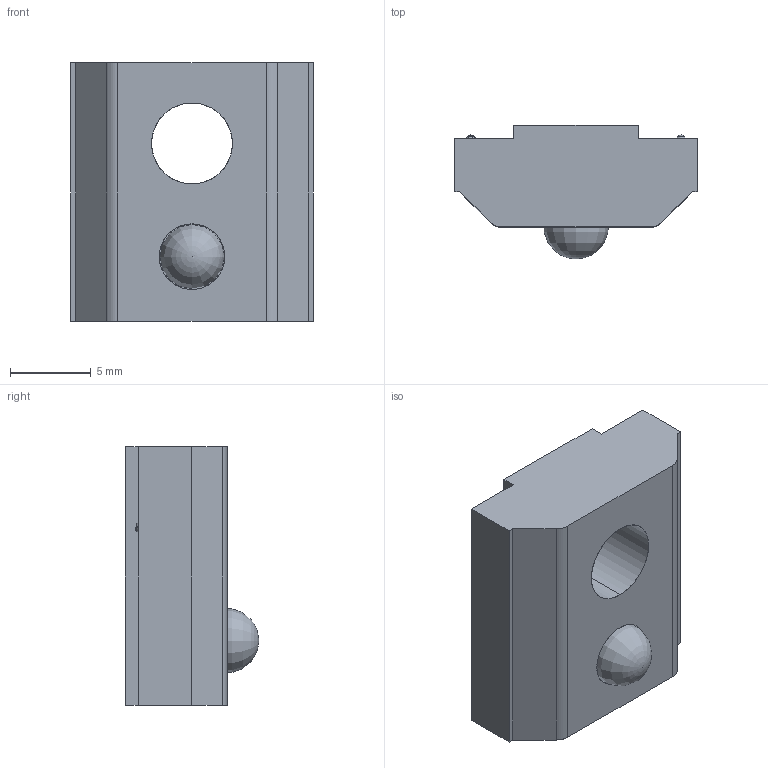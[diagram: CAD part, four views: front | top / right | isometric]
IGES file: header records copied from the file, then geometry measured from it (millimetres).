
Start section: SolidWorks IGES file using analytic representation for surfaces
Global section: file name: C:\Documents and Settings\SugiyamaN\デスクトップ\新しいフォルダ\SFB-820\SFB-820\SFB-820-IGS.IGS; native system: SolidWorks 2011; preprocessor: SolidWorks 2011; author: sugiyamaN; date: 121122.114539; units: millimetre
Bounding box: 15 x 8.25 x 16 mm (x, y, z)
Surface area: 1032.5 mm2 (no closed solid volume)
Topology: 0 solids, 0 shells, 33 faces, 393 edges, 385 vertices
Faces by surface type: revolution 18, bspline 15
